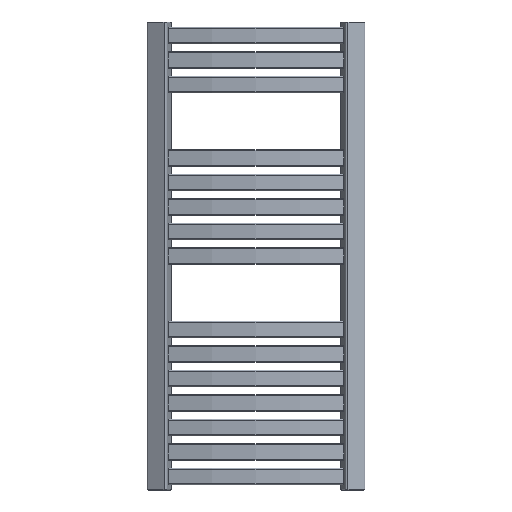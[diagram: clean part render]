
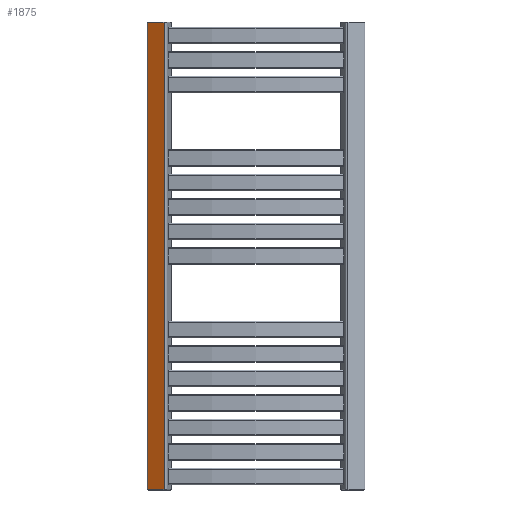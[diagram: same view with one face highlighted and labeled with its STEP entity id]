
A CAD part, front view. The second image highlights one B-rep face of the part: STEP entity #1875.
In plain terms, the highlighted planar face has unit normal (-0.515, -0.857, 0).
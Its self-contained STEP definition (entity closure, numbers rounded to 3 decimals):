
#249=CARTESIAN_POINT('',(-198.242,-5.701,1.5));
#250=VERTEX_POINT('',#249);
#298=CARTESIAN_POINT('',(-168.958,-23.297,1.5));
#299=VERTEX_POINT('',#298);
#307=CARTESIAN_POINT('',(-168.958,-23.297,1.5));
#308=DIRECTION('',(-0.857,0.515,0.0));
#309=VECTOR('',#308,34.164);
#310=LINE('',#307,#309);
#311=EDGE_CURVE('',#299,#250,#310,.T.);
#524=CARTESIAN_POINT('',(-198.242,-5.701,858.5));
#525=VERTEX_POINT('',#524);
#526=CARTESIAN_POINT('',(-198.242,-5.701,1.5));
#527=DIRECTION('',(0.0,0.0,1.0));
#528=VECTOR('',#527,857.0);
#529=LINE('',#526,#528);
#530=EDGE_CURVE('',#250,#525,#529,.T.);
#582=CARTESIAN_POINT('',(-168.958,-23.297,858.5));
#583=VERTEX_POINT('',#582);
#600=CARTESIAN_POINT('',(-198.242,-5.701,858.5));
#601=DIRECTION('',(0.857,-0.515,0.0));
#602=VECTOR('',#601,34.164);
#603=LINE('',#600,#602);
#604=EDGE_CURVE('',#525,#583,#603,.T.);
#1855=CARTESIAN_POINT('',(-168.958,-23.297,858.5));
#1856=DIRECTION('',(0.0,0.0,-1.0));
#1857=VECTOR('',#1856,857.0);
#1858=LINE('',#1855,#1857);
#1859=EDGE_CURVE('',#583,#299,#1858,.T.);
#1864=CARTESIAN_POINT('',(-165.048,-25.646,0.0));
#1865=DIRECTION('',(-0.515,-0.857,0.0));
#1866=DIRECTION('',(0.0,0.0,1.0));
#1867=AXIS2_PLACEMENT_3D('',#1864,#1865,#1866);
#1868=PLANE('',#1867);
#1869=ORIENTED_EDGE('',*,*,#311,.F.);
#1870=ORIENTED_EDGE('',*,*,#1859,.F.);
#1871=ORIENTED_EDGE('',*,*,#604,.F.);
#1872=ORIENTED_EDGE('',*,*,#530,.F.);
#1873=EDGE_LOOP('',(#1869,#1870,#1871,#1872));
#1874=FACE_OUTER_BOUND('',#1873,.T.);
#1875=ADVANCED_FACE('',(#1874),#1868,.T.);
